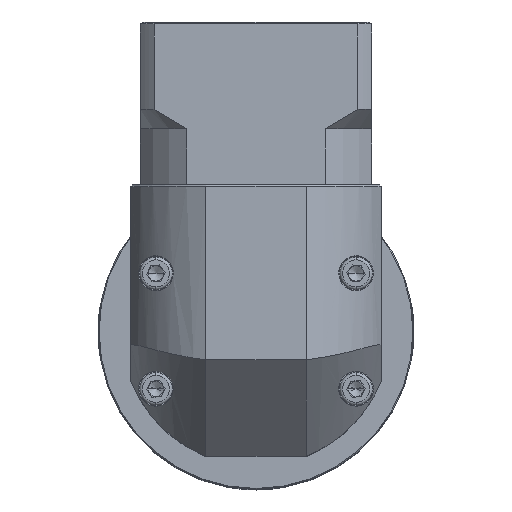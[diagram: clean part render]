
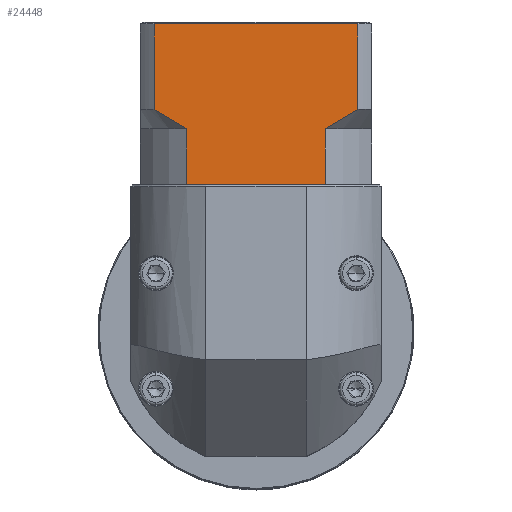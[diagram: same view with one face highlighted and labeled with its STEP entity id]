
A CAD part, top view. The second image highlights one B-rep face of the part: STEP entity #24448.
In plain terms, the highlighted planar face has unit normal (0, 0, 1).
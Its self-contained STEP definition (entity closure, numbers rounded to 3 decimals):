
#527 = ORIENTED_EDGE ( 'NONE', *, *, #62077, .F. ) ;
#2501 = ORIENTED_EDGE ( 'NONE', *, *, #17993, .F. ) ;
#3066 = VECTOR ( 'NONE', #90355, 1000. ) ;
#4338 = LINE ( 'NONE', #116315, #98131 ) ;
#6417 = VERTEX_POINT ( 'NONE', #47145 ) ;
#8961 = B_SPLINE_CURVE_WITH_KNOTS ( 'NONE', 3,
 ( #70156, #37148, #16845, #91343, #59632, #27426 ),
 .UNSPECIFIED., .F., .F.,
 ( 4, 2, 4 ),
 ( 0.1, 0.104, 0.109 ),
 .UNSPECIFIED. ) ;
#11780 = VERTEX_POINT ( 'NONE', #109403 ) ;
#12025 = EDGE_CURVE ( 'NONE', #126994, #6417, #97707, .T. ) ;
#16442 = VERTEX_POINT ( 'NONE', #61180 ) ;
#16845 = CARTESIAN_POINT ( 'NONE',  ( -43.076, 103.345, 31.14 ) ) ;
#17993 = EDGE_CURVE ( 'NONE', #27923, #105832, #4338, .T. ) ;
#20104 = LINE ( 'NONE', #28350, #76047 ) ;
#20339 = LINE ( 'NONE', #61391, #120634 ) ;
#21954 = B_SPLINE_CURVE_WITH_KNOTS ( 'NONE', 3,
 ( #135945, #73352, #51779, #62320, #83927, #126283 ),
 .UNSPECIFIED., .F., .F.,
 ( 4, 2, 4 ),
 ( 0.052, 0.057, 0.062 ),
 .UNSPECIFIED. ) ;
#23396 = ORIENTED_EDGE ( 'NONE', *, *, #26261, .T. ) ;
#24448 = ADVANCED_FACE ( 'NONE', ( #113050 ), #42549, .F. ) ;
#26261 = EDGE_CURVE ( 'NONE', #89993, #63058, #20339, .T. ) ;
#26272 = EDGE_CURVE ( 'NONE', #11780, #89993, #80981, .T. ) ;
#27426 = CARTESIAN_POINT ( 'NONE',  ( -37.528, 106.794, 31.14 ) ) ;
#27645 = LINE ( 'NONE', #111933, #3066 ) ;
#27923 = VERTEX_POINT ( 'NONE', #76511 ) ;
#28350 = CARTESIAN_POINT ( 'NONE',  ( -45.958, 101.794, 31.14 ) ) ;
#37148 = CARTESIAN_POINT ( 'NONE',  ( -44.501, 102.544, 31.14 ) ) ;
#38757 = CARTESIAN_POINT ( 'NONE',  ( -46.949, 87.294, 31.14 ) ) ;
#39948 = ORIENTED_EDGE ( 'NONE', *, *, #135191, .F. ) ;
#42549 = PLANE ( 'NONE',  #46805 ) ;
#43474 = CARTESIAN_POINT ( 'NONE',  ( -93.986, 129.494, 31.14 ) ) ;
#46805 = AXIS2_PLACEMENT_3D ( 'NONE', #43474, #96376, #87110 ) ;
#47145 = CARTESIAN_POINT ( 'NONE',  ( -82.013, 101.794, 31.14 ) ) ;
#49934 = LINE ( 'NONE', #70027, #66487 ) ;
#51779 = CARTESIAN_POINT ( 'NONE',  ( -87.705, 105.021, 31.14 ) ) ;
#59632 = CARTESIAN_POINT ( 'NONE',  ( -38.891, 105.893, 31.14 ) ) ;
#60410 = ORIENTED_EDGE ( 'NONE', *, *, #136477, .T. ) ;
#61180 = CARTESIAN_POINT ( 'NONE',  ( -90.443, 106.794, 31.14 ) ) ;
#61391 = CARTESIAN_POINT ( 'NONE',  ( -93.986, 87.294, 31.14 ) ) ;
#62077 = EDGE_CURVE ( 'NONE', #80796, #63058, #20104, .T. ) ;
#62320 = CARTESIAN_POINT ( 'NONE',  ( -84.897, 103.346, 31.14 ) ) ;
#63058 = VERTEX_POINT ( 'NONE', #118997 ) ;
#63811 = VECTOR ( 'NONE', #88107, 1000. ) ;
#66487 = VECTOR ( 'NONE', #90299, 1000. ) ;
#69346 = EDGE_CURVE ( 'NONE', #126994, #11780, #134542, .T. ) ;
#69556 = CARTESIAN_POINT ( 'NONE',  ( -45.958, 101.794, 31.14 ) ) ;
#70027 = CARTESIAN_POINT ( 'NONE',  ( -93.986, 128.994, 31.14 ) ) ;
#70156 = CARTESIAN_POINT ( 'NONE',  ( -45.958, 101.794, 31.14 ) ) ;
#71376 = VECTOR ( 'NONE', #73002, 1000. ) ;
#71688 = ORIENTED_EDGE ( 'NONE', *, *, #124098, .T. ) ;
#73002 = DIRECTION ( 'NONE',  ( 0., 1., 0. ) ) ;
#73352 = CARTESIAN_POINT ( 'NONE',  ( -89.083, 105.895, 31.14 ) ) ;
#76047 = VECTOR ( 'NONE', #134146, 1000. ) ;
#76511 = CARTESIAN_POINT ( 'NONE',  ( -37.528, 128.994, 31.14 ) ) ;
#78690 = VERTEX_POINT ( 'NONE', #122636 ) ;
#79416 = VECTOR ( 'NONE', #134102, 1000. ) ;
#80796 = VERTEX_POINT ( 'NONE', #69556 ) ;
#80981 = LINE ( 'NONE', #103290, #79416 ) ;
#81133 = EDGE_LOOP ( 'NONE', ( #2501, #60410, #39948, #81778, #114135, #92734, #126619, #23396, #527, #71688 ) ) ;
#81778 = ORIENTED_EDGE ( 'NONE', *, *, #110387, .T. ) ;
#83927 = CARTESIAN_POINT ( 'NONE',  ( -83.466, 102.542, 31.14 ) ) ;
#87110 = DIRECTION ( 'NONE',  ( 0., 1., 0. ) ) ;
#88107 = DIRECTION ( 'NONE',  ( 1., 0., 0. ) ) ;
#89760 = CARTESIAN_POINT ( 'NONE',  ( -37.528, 106.794, 31.14 ) ) ;
#89993 = VERTEX_POINT ( 'NONE', #38757 ) ;
#90299 = DIRECTION ( 'NONE',  ( -1., 0., 0. ) ) ;
#90355 = DIRECTION ( 'NONE',  ( 0., 1., 0. ) ) ;
#91343 = CARTESIAN_POINT ( 'NONE',  ( -40.271, 105.019, 31.14 ) ) ;
#92734 = ORIENTED_EDGE ( 'NONE', *, *, #69346, .T. ) ;
#96376 = DIRECTION ( 'NONE',  ( 0., 0., -1. ) ) ;
#97707 = LINE ( 'NONE', #124553, #71376 ) ;
#98131 = VECTOR ( 'NONE', #127866, 1000. ) ;
#98561 = CARTESIAN_POINT ( 'NONE',  ( -82.013, 87.294, 31.14 ) ) ;
#99141 = CARTESIAN_POINT ( 'NONE',  ( -93.986, 87.294, 31.14 ) ) ;
#103290 = CARTESIAN_POINT ( 'NONE',  ( -93.986, 87.294, 31.14 ) ) ;
#105832 = VERTEX_POINT ( 'NONE', #89760 ) ;
#109403 = CARTESIAN_POINT ( 'NONE',  ( -81.022, 87.294, 31.14 ) ) ;
#110387 = EDGE_CURVE ( 'NONE', #16442, #6417, #21954, .T. ) ;
#111933 = CARTESIAN_POINT ( 'NONE',  ( -90.443, 101.794, 31.14 ) ) ;
#113050 = FACE_OUTER_BOUND ( 'NONE', #81133, .T. ) ;
#114135 = ORIENTED_EDGE ( 'NONE', *, *, #12025, .F. ) ;
#116315 = CARTESIAN_POINT ( 'NONE',  ( -37.528, 101.794, 31.14 ) ) ;
#118997 = CARTESIAN_POINT ( 'NONE',  ( -45.958, 87.294, 31.14 ) ) ;
#120634 = VECTOR ( 'NONE', #133649, 1000. ) ;
#122636 = CARTESIAN_POINT ( 'NONE',  ( -90.443, 128.994, 31.14 ) ) ;
#124098 = EDGE_CURVE ( 'NONE', #80796, #105832, #8961, .T. ) ;
#124553 = CARTESIAN_POINT ( 'NONE',  ( -82.013, 101.794, 31.14 ) ) ;
#126283 = CARTESIAN_POINT ( 'NONE',  ( -82.013, 101.794, 31.14 ) ) ;
#126619 = ORIENTED_EDGE ( 'NONE', *, *, #26272, .T. ) ;
#126994 = VERTEX_POINT ( 'NONE', #98561 ) ;
#127866 = DIRECTION ( 'NONE',  ( 0., -1., 0. ) ) ;
#133649 = DIRECTION ( 'NONE',  ( 1., 0., 0. ) ) ;
#134102 = DIRECTION ( 'NONE',  ( 1., 0., 0. ) ) ;
#134146 = DIRECTION ( 'NONE',  ( 0., -1., 0. ) ) ;
#134542 = LINE ( 'NONE', #99141, #63811 ) ;
#135191 = EDGE_CURVE ( 'NONE', #16442, #78690, #27645, .T. ) ;
#135945 = CARTESIAN_POINT ( 'NONE',  ( -90.443, 106.794, 31.14 ) ) ;
#136477 = EDGE_CURVE ( 'NONE', #27923, #78690, #49934, .T. ) ;
